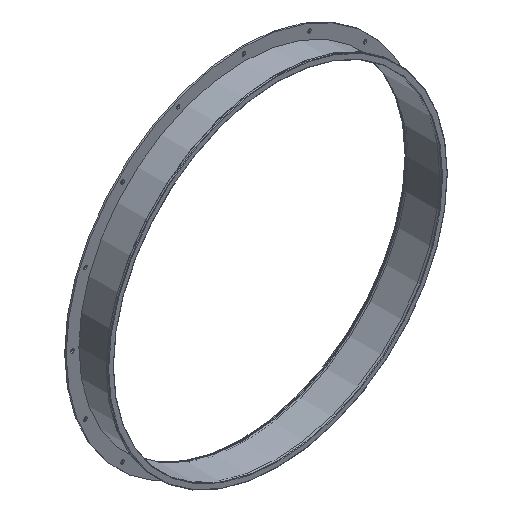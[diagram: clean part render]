
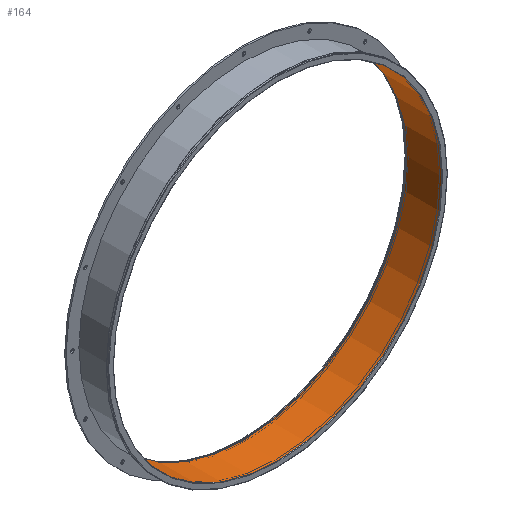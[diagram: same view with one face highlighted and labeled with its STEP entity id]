
A CAD part, isometric view. The second image highlights one B-rep face of the part: STEP entity #164.
In plain terms, the highlighted cylindrical face has radius 450 mm (diameter 900 mm), a full revolution.
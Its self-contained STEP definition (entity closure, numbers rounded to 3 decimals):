
#129=CYLINDRICAL_SURFACE('',#771,450.);
#164=ADVANCED_FACE('',(#277,#278),#129,.F.);
#277=FACE_BOUND('',#389,.T.);
#278=FACE_BOUND('',#390,.T.);
#389=EDGE_LOOP('',(#501));
#390=EDGE_LOOP('',(#502));
#501=ORIENTED_EDGE('',*,*,#624,.T.);
#502=ORIENTED_EDGE('',*,*,#625,.T.);
#568=VERTEX_POINT('',#1112);
#569=VERTEX_POINT('',#1114);
#624=EDGE_CURVE('',#568,#568,#680,.T.);
#625=EDGE_CURVE('',#569,#569,#681,.T.);
#680=CIRCLE('',#769,450.);
#681=CIRCLE('',#770,450.);
#769=AXIS2_PLACEMENT_3D('',#1111,#950,#951);
#770=AXIS2_PLACEMENT_3D('',#1113,#952,#953);
#771=AXIS2_PLACEMENT_3D('',#1115,#954,#955);
#950=DIRECTION('',(0.,-1.,0.));
#951=DIRECTION('',(-1.,0.,0.));
#952=DIRECTION('',(0.,1.,0.));
#953=DIRECTION('',(1.,0.,0.));
#954=DIRECTION('',(0.,1.,0.));
#955=DIRECTION('',(1.,0.,0.));
#1111=CARTESIAN_POINT('',(0.,1.2,0.));
#1112=CARTESIAN_POINT('',(-450.,1.2,0.));
#1113=CARTESIAN_POINT('',(0.,98.8,0.));
#1114=CARTESIAN_POINT('',(450.,98.8,0.));
#1115=CARTESIAN_POINT('',(0.,-192.076,0.));
